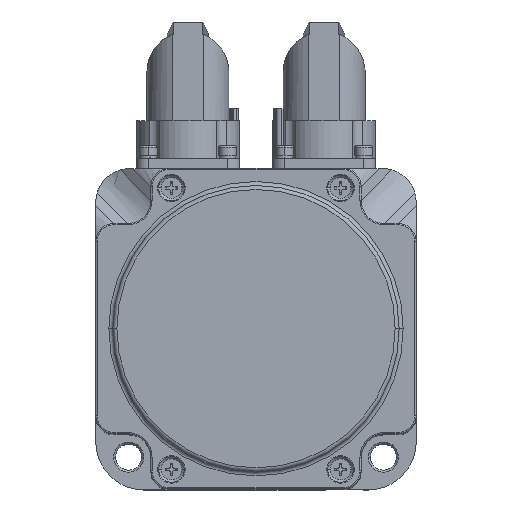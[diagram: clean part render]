
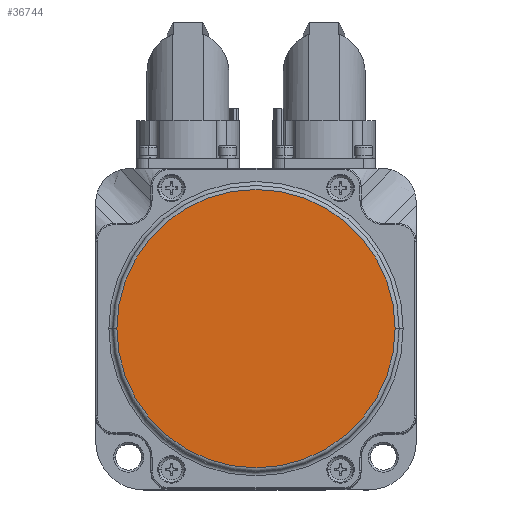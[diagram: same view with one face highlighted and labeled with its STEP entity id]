
A CAD part, top view. The second image highlights one B-rep face of the part: STEP entity #36744.
In plain terms, the highlighted planar face has unit normal (0, 0, 1).
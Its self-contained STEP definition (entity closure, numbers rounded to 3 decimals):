
#5941 = CARTESIAN_POINT ( 'NONE',  ( 0., 0., 6.5 ) ) ;
#5943 = DIRECTION ( 'NONE',  ( 0., 0., 1. ) ) ;
#5945 = DIRECTION ( 'NONE',  ( 1., 0., 0. ) ) ;
#11164 = CIRCLE ( 'NONE', #11176, 34.75 ) ;
#11176 = AXIS2_PLACEMENT_3D ( 'NONE', #5941, #5943, #5945 ) ;
#13928 = EDGE_LOOP ( 'NONE', ( #46538, #46539 ) ) ;
#15567 = AXIS2_PLACEMENT_3D ( 'NONE', #50313, #50314, #50315 ) ;
#19484 = VERTEX_POINT ( 'NONE', #31455 ) ;
#19518 = VERTEX_POINT ( 'NONE', #31474 ) ;
#24663 = FACE_OUTER_BOUND ( 'NONE', #13928, .T. ) ;
#30583 = CARTESIAN_POINT ( 'NONE',  ( 0., 0., 6.5 ) ) ;
#30584 = DIRECTION ( 'NONE',  ( 0., 0., 1. ) ) ;
#30585 = DIRECTION ( 'NONE',  ( 1., 0., 0. ) ) ;
#31455 = CARTESIAN_POINT ( 'NONE',  ( -34.75, 0., 6.5 ) ) ;
#31474 = CARTESIAN_POINT ( 'NONE',  ( 34.75, 0., 6.5 ) ) ;
#35777 = EDGE_CURVE ( 'NONE', #19484, #19518, #51444, .T. ) ;
#36744 = ADVANCED_FACE ( 'NONE', ( #24663 ), #50312, .T. ) ;
#37943 = EDGE_CURVE ( 'NONE', #19518, #19484, #11164, .T. ) ;
#46538 = ORIENTED_EDGE ( 'NONE', *, *, #37943, .T. ) ;
#46539 = ORIENTED_EDGE ( 'NONE', *, *, #35777, .T. ) ;
#50312 = PLANE ( 'NONE',  #15567 ) ;
#50313 = CARTESIAN_POINT ( 'NONE',  ( 0., 0., 6.5 ) ) ;
#50314 = DIRECTION ( 'NONE',  ( 0., 0., 1. ) ) ;
#50315 = DIRECTION ( 'NONE',  ( 1., 0., 0. ) ) ;
#51221 = AXIS2_PLACEMENT_3D ( 'NONE', #30583, #30584, #30585 ) ;
#51444 = CIRCLE ( 'NONE', #51221, 34.75 ) ;
